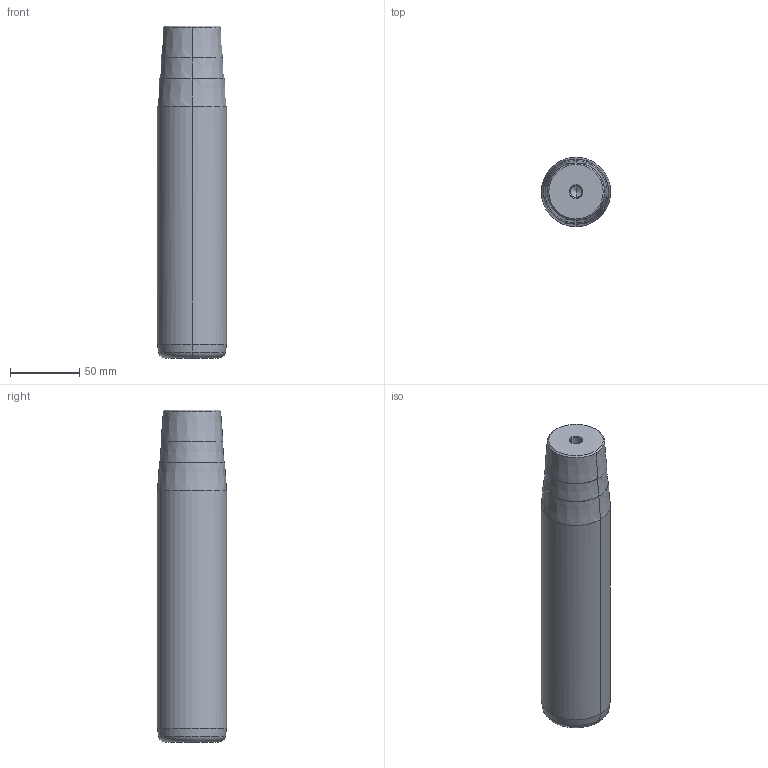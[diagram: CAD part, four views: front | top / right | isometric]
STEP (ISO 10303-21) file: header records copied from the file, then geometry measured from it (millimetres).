
FILE_DESCRIPTION(('CATIA V5 STEP Exchange'),'2;1');
FILE_NAME('C:\Users\Utente\Desktop\IO LAVORO\3D X SITO CF\X SITO\722\722-50x200x240.stp','2021-01-08T14:55:17+00:00',('none'),('none'),'CATIA Version 5 Release 20 GA (IN-10)','CATIA V5 STEP AP203','none');
FILE_SCHEMA(('CONFIG_CONTROL_DESIGN'));
Length unit declared in the file: millimetre
Products named in the file (1): 722-50x200x240
Bounding box: 50 x 50 x 240 mm (x, y, z)
Volume: 447518.7 mm3; surface area: 41098 mm2
Topology: 1 solids, 1 shells, 32 faces, 98 edges, 66 vertices
Faces by surface type: cone 22, cylinder 6, plane 2, torus 2
Entity records: 1166 total; most frequent: CARTESIAN_POINT 279, ORIENTED_EDGE 188, DIRECTION 148, EDGE_CURVE 94, AXIS2_PLACEMENT_3D 89, VERTEX_POINT 66, CIRCLE 56, EDGE_LOOP 34
